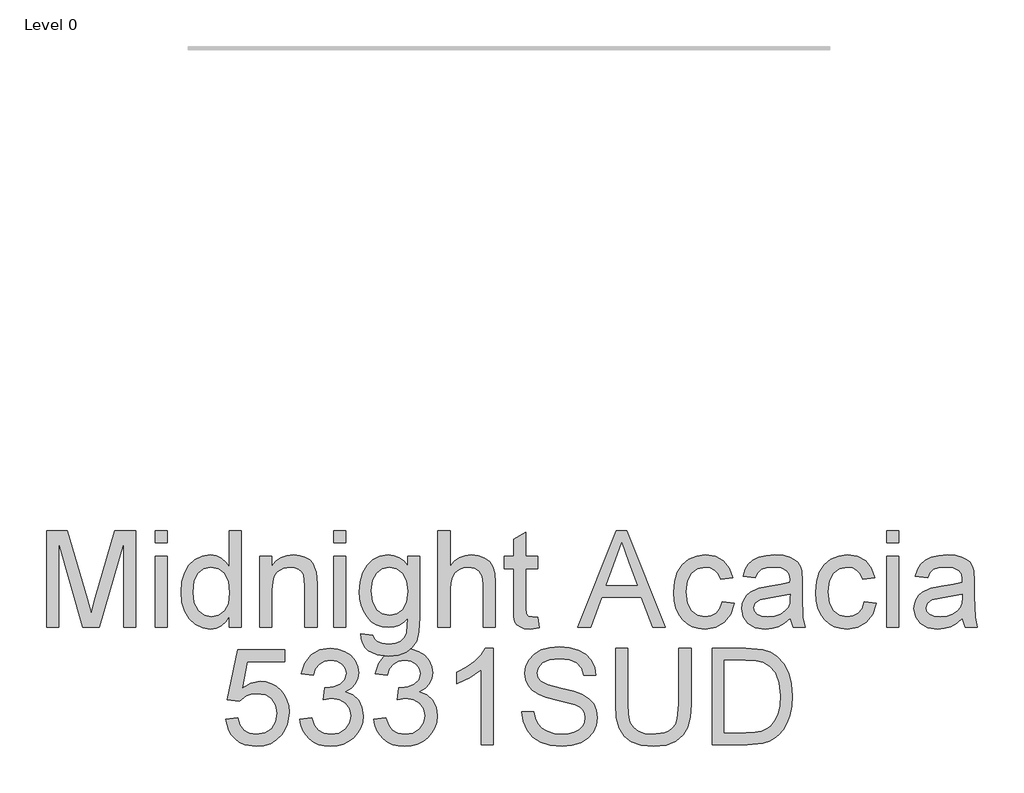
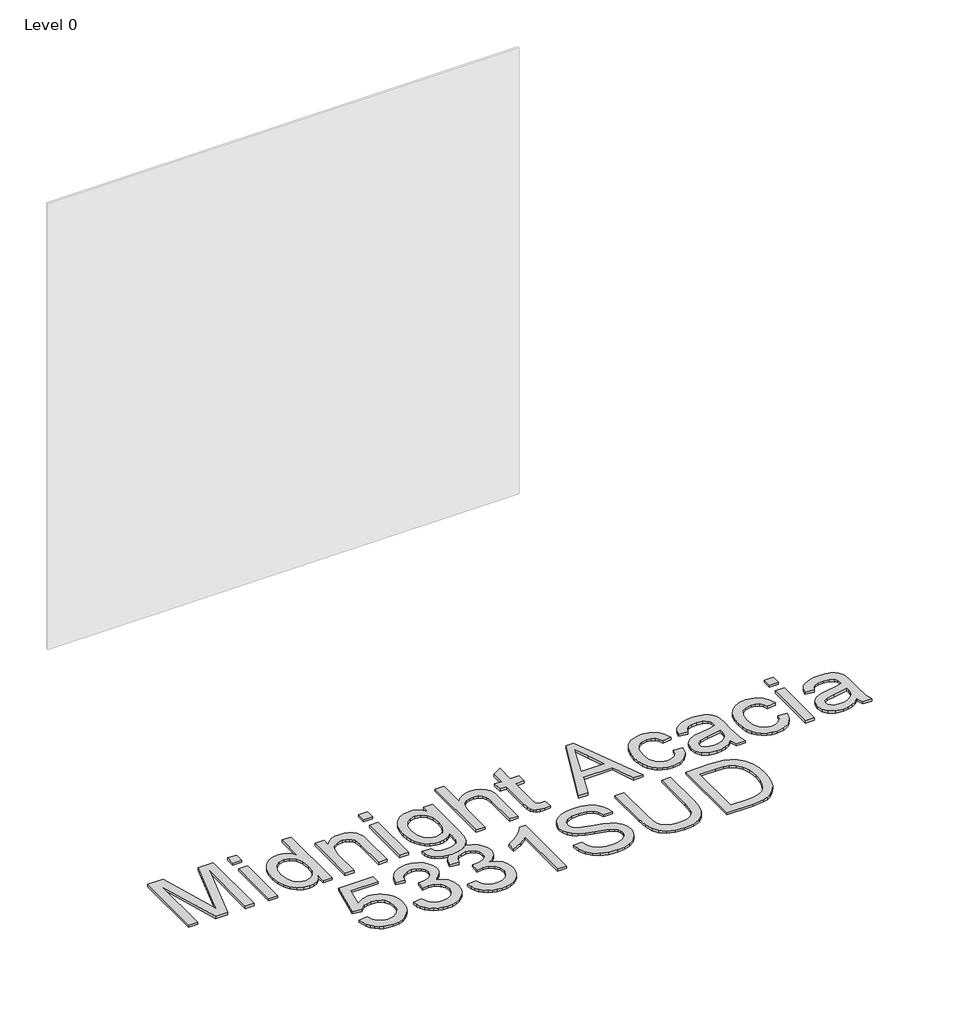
# One storey, part 3 of 7: 1 proxy.
"""IFC4 building model written with IfcOpenShell, lengths in millimetres."""

from ifc_helpers import new_model, si_unit, origin, origin_with_axes, place, context, project, spatial, polyline, outline, extrude, element, save

model = new_model("IFC4")

# Units and contexts
model_context = context("Model", 3, world=origin())
ifc_project = project(units=[si_unit("LENGTHUNIT", "METRE", prefix="MILLI")], contexts=[model_context])

# Site, building, storey
site = spatial("IfcSite", under=ifc_project)
building = spatial("IfcBuilding", under=site)
storey = spatial("IfcBuildingStorey", under=building, Name="Level 0", Elevation=0.0)

# Proxy
placement = place(None, origin())
element("IfcBuildingElementProxy", 1, Name="300mm Arial", ObjectType="300mm Arial", at=placement, inside=storey, context=model_context, shape_type="SweptSolid", body=[
    extrude(outline(polyline([(-5891.578255, -7002.860494), (-5891.578255, -6701.4915635), (-5826.7574475, -6701.4915635), (-5765.1004251, -6913.9066275), (-5752.6660136, -6958.2731962), (-5739.2015326, -6910.2278076), (-5678.5745798, -6701.4915635), (-5613.7537723, -6701.4915635), (-5613.7537723, -7002.860494), (-5651.4248886, -7002.860494), (-5651.4248886, -6739.1626798), (-5727.1350032, -7002.860494), (-5778.1970241, -7002.860494), (-5853.9071387, -6739.1626798), (-5853.9071387, -7002.860494), (-5891.578255, -7002.860494)])), origin_with_axes(), (0.0, 0.0, 1.0), 10.0),
    extrude(outline(polyline([(-5552.5382083, -6739.1626798), (-5552.5382083, -6701.4915635), (-5514.867092, -6701.4915635), (-5514.867092, -6739.1626798), (-5552.5382083, -6739.1626798)])), origin_with_axes(), (0.0, 0.0, 1.0), 10.0),
    extrude(outline(polyline([(-5552.5382083, -7002.860494), (-5552.5382083, -6781.5426857), (-5514.867092, -6781.5426857), (-5514.867092, -7002.860494), (-5552.5382083, -7002.860494)])), origin_with_axes(), (0.0, 0.0, 1.0), 10.0),
    extrude(outline(polyline([(-5321.8026209, -7002.860494), (-5321.8026209, -6967.3230932), (-5333.0736055, -6984.9308452), (-5346.7266261, -6997.507811), (-5362.7616825, -7005.0539904), (-5381.1787749, -7007.5693835), (-5405.532563, -7003.9273518), (-5427.8262119, -6993.0012565), (-5446.6985582, -6975.5544529), (-5460.7884387, -6952.350296), (-5469.5624242, -6924.3268851), (-5472.4870861, -6892.422319), (-5469.7923505, -6860.9132261), (-5461.7081437, -6832.4575538), (-5448.2436626, -6808.6739828), (-5429.4081045, -6791.181194), (-5406.6270119, -6780.4206456), (-5381.3259277, -6776.8337961), (-5362.8950397, -6779.3997731), (-5346.5978674, -6787.0977038), (-5332.7838984, -6798.8975188), (-5321.8026209, -6813.7691485), (-5321.8026209, -6701.4915635), (-5284.1315046, -6701.4915635), (-5284.1315046, -7002.860494), (-5321.8026209, -7002.860494)]), holes=[polyline([(-5434.8159698, -6892.2751662), (-5430.5669328, -6926.350236), (-5417.8198216, -6950.5844625), (-5399.2969632, -6965.069816), (-5377.7206842, -6969.8982672), (-5356.1536022, -6965.2905452), (-5338.0997933, -6951.4673793), (-5325.876914, -6928.1712519), (-5321.8026209, -6895.1446458), (-5325.9504904, -6859.037028), (-5338.3940989, -6834.0026582), (-5356.9077603, -6819.3793489), (-5379.2657885, -6814.5049125), (-5401.0627967, -6819.1862108), (-5418.9234676, -6833.230106), (-5430.8428443, -6857.3539678), (-5434.8159698, -6892.2751662)])]), origin_with_axes(), (0.0, 0.0, 1.0), 10.0),
    extrude(outline(polyline([(-5227.6248301, -7002.860494), (-5227.6248301, -6781.5426857), (-5189.9537138, -6781.5426857), (-5189.9537138, -6812.4447733), (-5176.8663118, -6796.8649708), (-5161.1485536, -6785.7365404), (-5142.8004391, -6779.0594822), (-5121.8219683, -6776.8337961), (-5103.2531246, -6778.6272209), (-5086.2477794, -6784.0074951), (-5072.0659285, -6792.303234), (-5061.9675677, -6802.8430532), (-5050.6735904, -6830.5445674), (-5048.6870277, -6866.964885), (-5048.6870277, -7002.860494), (-5086.358144, -7002.860494), (-5086.358144, -6872.0416565), (-5090.6991515, -6838.7115477), (-5096.7048251, -6828.7879309), (-5106.0398307, -6821.0900002), (-5118.0051926, -6816.1511844), (-5131.901935, -6814.5049125), (-5153.9656576, -6818.2021265), (-5172.7736246, -6829.2937687), (-5180.2899137, -6838.3482643), (-5185.6586915, -6850.7228949), (-5189.9537138, -6885.4325611), (-5189.9537138, -7002.860494), (-5227.6248301, -7002.860494)])), origin_with_axes(), (0.0, 0.0, 1.0), 10.0),
    extrude(outline(polyline([(-4996.8892427, -6739.1626798), (-4996.8892427, -6701.4915635), (-4959.2181264, -6701.4915635), (-4959.2181264, -6739.1626798), (-4996.8892427, -6739.1626798)])), origin_with_axes(), (0.0, 0.0, 1.0), 10.0),
    extrude(outline(polyline([(-4996.8892427, -7002.860494), (-4996.8892427, -6781.5426857), (-4959.2181264, -6781.5426857), (-4959.2181264, -7002.860494), (-4996.8892427, -7002.860494)])), origin_with_axes(), (0.0, 0.0, 1.0), 10.0),
    extrude(outline(polyline([(-4912.1292311, -7021.6960521), (-4874.4581148, -7026.4049417), (-4870.3010482, -7038.1771655), (-4862.2444325, -7046.2705694), (-4846.4071126, -7052.5613515), (-4825.6769622, -7054.6582789), (-4803.5672543, -7052.28544), (-4787.1229291, -7045.1669234), (-4775.7185872, -7033.7625816), (-4768.7288293, -7018.532267), (-4766.1536554, -6974.6071568), (-4778.6892344, -6986.9679918), (-4792.6779472, -6995.7971597), (-4808.119794, -7001.0946604), (-4825.0147746, -7002.860494), (-4845.6690494, -7000.8049533), (-4863.8539162, -6994.6383314), (-4879.5693752, -6984.3606281), (-4892.8154263, -6969.9718436), (-4903.3253551, -6952.708981), (-4910.832447, -6933.8090435), (-4915.3367022, -6913.2720311), (-4916.8381206, -6891.0979438), (-4914.143385, -6860.6832999), (-4906.0591781, -6832.7150712), (-4892.8706086, -6809.0142737), (-4874.8627849, -6791.4019232), (-4852.6519095, -6780.4758279), (-4826.8541846, -6776.8337961), (-4809.2372355, -6778.8939353), (-4793.2481643, -6785.0743528), (-4778.8869709, -6795.3750487), (-4766.1536554, -6809.7960229), (-4766.1536554, -6781.5426857), (-4728.4825391, -6781.5426857), (-4728.4825391, -6972.620594), (-4731.057713, -7016.7388422), (-4738.7832349, -7045.7923228), (-4752.0913661, -7065.0601423), (-4771.4143679, -7079.8214074), (-4796.329176, -7089.2023982), (-4826.4127262, -7092.3293952), (-4861.4626833, -7087.9240083), (-4889.06303, -7074.7078476), (-4899.4579956, -7064.7865301), (-4906.767351, -7052.644125), (-4910.9910961, -7038.2806323), (-4912.1292311, -7021.6960521)]), holes=[polyline([(-4879.1670043, -6888.5227699), (-4875.1478935, -6923.0760863), (-4863.0905611, -6946.8320661), (-4844.9631758, -6960.6000498), (-4822.7339062, -6965.1893777), (-4800.6701836, -6960.6276409), (-4782.4508278, -6946.9424307), (-4770.2279485, -6923.4899535), (-4766.1536554, -6889.6264159), (-4770.3475101, -6856.9676917), (-4782.9290744, -6833.4508352), (-4801.4151446, -6819.2413931), (-4823.3225174, -6814.5049125), (-4844.8344171, -6819.1678167), (-4862.8698319, -6833.1565296), (-4875.0927112, -6856.3238983), (-4879.1670043, -6888.5227699)])]), origin_with_axes(), (0.0, 0.0, 1.0), 10.0),
    extrude(outline(polyline([(-4671.9758646, -7002.860494), (-4671.9758646, -6701.4915635), (-4634.3047483, -6701.4915635), (-4634.3047483, -6812.2976205), (-4620.4677868, -6796.7821973), (-4604.929371, -6785.6997522), (-4587.689501, -6779.0502852), (-4568.7481768, -6776.8337961), (-4545.9946754, -6779.2526203), (-4526.4417473, -6786.5090926), (-4511.0458858, -6798.0329961), (-4500.7635841, -6813.2541137), (-4494.9694426, -6834.1682051), (-4493.0380622, -6862.7710302), (-4493.0380622, -7002.860494), (-4530.7091785, -7002.860494), (-4530.7091785, -6866.6705794), (-4533.7074167, -6843.0893435), (-4542.7021315, -6826.9393239), (-4557.1966821, -6817.6135153), (-4576.6944279, -6814.5049125), (-4592.6145212, -6816.6018398), (-4607.5597273, -6822.8926219), (-4619.9389564, -6832.7702535), (-4628.161119, -6845.6277292), (-4632.768841, -6862.7158479), (-4634.3047483, -6885.2854083), (-4634.3047483, -7002.860494), (-4671.9758646, -7002.860494)])), origin_with_axes(), (0.0, 0.0, 1.0), 10.0),
    extrude(outline(polyline([(-4361.1891551, -6971.4433716), (-4356.4802655, -7003.96414), (-4384.6600264, -7007.5693835), (-4402.7414264, -7006.005885), (-4416.2243016, -7001.3153896), (-4425.7524452, -6994.0865084), (-4431.969651, -6984.9078526), (-4435.3909535, -6969.1441091), (-4436.5313877, -6942.1599648), (-4436.5313877, -6819.213802), (-4464.7847249, -6819.213802), (-4464.7847249, -6781.5426857), (-4436.5313877, -6781.5426857), (-4436.5313877, -6727.758338), (-4398.8602714, -6705.6118419), (-4398.8602714, -6781.5426857), (-4361.1891551, -6781.5426857), (-4361.1891551, -6819.213802), (-4398.8602714, -6819.213802), (-4398.8602714, -6941.0563188), (-4396.8737086, -6960.4804881), (-4390.4357737, -6967.3598814), (-4377.5966921, -6969.8982672), (-4361.1891551, -6971.4433716)])), origin_with_axes(), (0.0, 0.0, 1.0), 10.0),
    extrude(outline(polyline([(-4236.1828531, -7002.860494), (-4115.8854407, -6701.4915635), (-4083.8061307, -6701.4915635), (-3963.5087183, -7002.860494), (-4003.3135502, -7002.860494), (-4037.8208813, -6908.6827032), (-4161.9442665, -6908.6827032), (-4196.3780212, -7002.860494), (-4236.1828531, -7002.860494)]), holes=[polyline([(-4148.1119035, -6871.0115869), (-4051.5796679, -6871.0115869), (-4078.7293592, -6796.9201531), (-4099.8457857, -6739.1626798), (-4118.6077675, -6790.44543), (-4148.1119035, -6871.0115869)])]), origin_with_axes(), (0.0, 0.0, 1.0), 10.0),
    extrude(outline(polyline([(-3786.7046314, -6922.8093718), (-3749.0335151, -6927.5182614), (-3759.5365461, -6961.0231141), (-3779.2734151, -6986.3425924), (-3806.3863182, -7002.2626857), (-3839.0174511, -7007.5693835), (-3860.145374, -7005.7184772), (-3879.0889975, -7000.1657584), (-3895.8483216, -6990.9112269), (-3910.4233464, -6977.9548829), (-3922.2208621, -6961.5404481), (-3930.6476591, -6941.9116444), (-3935.7037372, -6919.0684718), (-3937.3890966, -6893.0109302), (-3934.51042, -6859.4876834), (-3925.8743902, -6830.4342028), (-3911.3430514, -6806.9725286), (-3890.7784478, -6790.2247008), (-3866.1763394, -6780.1815223), (-3839.5324859, -6776.8337961), (-3807.7014963, -6781.4323211), (-3782.2532593, -6795.2278959), (-3763.9971153, -6817.4847566), (-3753.7424046, -6847.4671392), (-3791.413521, -6852.1760288), (-3798.246929, -6835.7409006), (-3808.8879157, -6823.9594797), (-3822.7478699, -6816.8685543), (-3839.2381803, -6814.5049125), (-3863.5827714, -6819.1586197), (-3882.9057732, -6833.1197414), (-3895.5149285, -6857.1424357), (-3899.7179803, -6891.9808606), (-3895.606899, -6927.2883351), (-3883.2736551, -6951.3938029), (-3864.3001412, -6965.2721511), (-3840.2682499, -6969.8982672), (-3820.7613071, -6967.0103936), (-3804.7676374, -6958.3467726), (-3793.1333693, -6943.6866751), (-3786.7046314, -6922.8093718)])), origin_with_axes(), (0.0, 0.0, 1.0), 10.0),
    extrude(outline(polyline([(-3574.8046022, -6974.6071568), (-3592.8032288, -6990.0398064), (-3611.3352843, -7000.1381672), (-3630.823833, -7005.7115794), (-3651.6919392, -7007.5693835), (-3683.1734409, -7003.0996173), (-3706.3959919, -6989.6903186), (-3720.7157985, -6969.3280501), (-3725.4890674, -6943.9993748), (-3723.6864456, -6928.3827841), (-3718.2785803, -6914.2009331), (-3709.9368561, -6902.0608273), (-3699.3326576, -6892.5694718), (-3672.9555185, -6880.2086368), (-3640.3611737, -6874.5432541), (-3601.8439288, -6868.5835657), (-3575.0253314, -6861.5938078), (-3574.8046022, -6853.2060983), (-3577.3981703, -6836.3938912), (-3585.1788745, -6825.3942195), (-3602.5796928, -6817.2272392), (-3626.8231163, -6814.5049125), (-3649.263918, -6816.3167313), (-3664.935691, -6821.7521878), (-3675.622663, -6831.8045633), (-3683.1090616, -6847.4671392), (-3720.7801779, -6842.7582497), (-3714.2410754, -6822.156858), (-3704.4830055, -6805.9700502), (-3690.5954602, -6793.590821), (-3671.6679315, -6784.4121652), (-3648.518957, -6778.7283884), (-3621.967074, -6776.8337961), (-3596.5004429, -6778.5076592), (-3576.3129184, -6783.5292485), (-3561.0918008, -6791.0800264), (-3550.5243905, -6800.3414556), (-3543.5162385, -6811.7917827), (-3538.9728959, -6825.9092543), (-3537.1334859, -6858.8714811), (-3537.1334859, -6905.7396473), (-3535.2204995, -6971.1858542), (-3527.7157068, -7002.860494), (-3565.3868231, -7002.860494), (-3574.8046022, -6974.6071568)]), holes=[polyline([(-3574.8046022, -6899.2649241), (-3635.5787078, -6910.8164188), (-3667.9891116, -6916.9232599), (-3682.6676032, -6926.8560738), (-3687.8179511, -6941.3506244), (-3685.0128509, -6952.5526311), (-3676.5975503, -6961.7312869), (-3662.7559902, -6967.8565221), (-3643.6721117, -6969.8982672), (-3623.438602, -6967.64499), (-3605.559537, -6960.8851583), (-3591.0649864, -6950.9247533), (-3580.9850197, -6939.069756), (-3576.5152535, -6926.8560738), (-3575.0253314, -6909.933502), (-3574.8046022, -6899.2649241)])]), origin_with_axes(), (0.0, 0.0, 1.0), 10.0),
    extrude(outline(polyline([(-3344.0690148, -6922.8093718), (-3306.3978985, -6927.5182614), (-3316.9009295, -6961.0231141), (-3336.6377985, -6986.3425924), (-3363.7507016, -7002.2626857), (-3396.3818345, -7007.5693835), (-3417.5097574, -7005.7184772), (-3436.4533809, -7000.1657584), (-3453.212705, -6990.9112269), (-3467.7877298, -6977.9548829), (-3479.5852455, -6961.5404481), (-3488.0120425, -6941.9116444), (-3493.0681206, -6919.0684718), (-3494.75348, -6893.0109302), (-3491.8748034, -6859.4876834), (-3483.2387736, -6830.4342028), (-3468.7074348, -6806.9725286), (-3448.1428313, -6790.2247008), (-3423.5407228, -6780.1815223), (-3396.8968693, -6776.8337961), (-3365.0658797, -6781.4323211), (-3339.6176427, -6795.2278959), (-3321.3614987, -6817.4847566), (-3311.106788, -6847.4671392), (-3348.7779044, -6852.1760288), (-3355.6113124, -6835.7409006), (-3366.2522991, -6823.9594797), (-3380.1122533, -6816.8685543), (-3396.6025637, -6814.5049125), (-3420.9471548, -6819.1586197), (-3440.2701566, -6833.1197414), (-3452.8793119, -6857.1424357), (-3457.0823637, -6891.9808606), (-3452.9712824, -6927.2883351), (-3440.6380385, -6951.3938029), (-3421.6645246, -6965.2721511), (-3397.6326333, -6969.8982672), (-3378.1256905, -6967.0103936), (-3362.1320208, -6958.3467726), (-3350.4977527, -6943.6866751), (-3344.0690148, -6922.8093718)])), origin_with_axes(), (0.0, 0.0, 1.0), 10.0),
    extrude(outline(polyline([(-3273.4356717, -6739.1626798), (-3273.4356717, -6701.4915635), (-3235.7645554, -6701.4915635), (-3235.7645554, -6739.1626798), (-3273.4356717, -6739.1626798)])), origin_with_axes(), (0.0, 0.0, 1.0), 10.0),
    extrude(outline(polyline([(-3273.4356717, -7002.860494), (-3273.4356717, -6781.5426857), (-3235.7645554, -6781.5426857), (-3235.7645554, -7002.860494), (-3273.4356717, -7002.860494)])), origin_with_axes(), (0.0, 0.0, 1.0), 10.0),
    extrude(outline(polyline([(-3037.9911948, -6974.6071568), (-3055.9898214, -6990.0398064), (-3074.5218769, -7000.1381672), (-3094.0104256, -7005.7115794), (-3114.8785318, -7007.5693835), (-3146.3600336, -7003.0996173), (-3169.5825845, -6989.6903186), (-3183.9023912, -6969.3280501), (-3188.6756601, -6943.9993748), (-3186.8730383, -6928.3827841), (-3181.4651729, -6914.2009331), (-3173.1234487, -6902.0608273), (-3162.5192502, -6892.5694718), (-3136.1421111, -6880.2086368), (-3103.5477664, -6874.5432541), (-3065.0305215, -6868.5835657), (-3038.211924, -6861.5938078), (-3037.9911948, -6853.2060983), (-3040.5847629, -6836.3938912), (-3048.3654671, -6825.3942195), (-3065.7662855, -6817.2272392), (-3090.0097089, -6814.5049125), (-3112.4505107, -6816.3167313), (-3128.1222836, -6821.7521878), (-3138.8092556, -6831.8045633), (-3146.2956542, -6847.4671392), (-3183.9667705, -6842.7582497), (-3177.4276681, -6822.156858), (-3167.6695981, -6805.9700502), (-3153.7820528, -6793.590821), (-3134.8545242, -6784.4121652), (-3111.7055496, -6778.7283884), (-3085.1536666, -6776.8337961), (-3059.6870355, -6778.5076592), (-3039.499511, -6783.5292485), (-3024.2783935, -6791.0800264), (-3013.7109831, -6800.3414556), (-3006.7028311, -6811.7917827), (-3002.1594885, -6825.9092543), (-3000.3200785, -6858.8714811), (-3000.3200785, -6905.7396473), (-2998.4070921, -6971.1858542), (-2990.9022994, -7002.860494), (-3028.5734158, -7002.860494), (-3037.9911948, -6974.6071568)]), holes=[polyline([(-3037.9911948, -6899.2649241), (-3098.7653004, -6910.8164188), (-3131.1757042, -6916.9232599), (-3145.8541958, -6926.8560738), (-3151.0045437, -6941.3506244), (-3148.1994435, -6952.5526311), (-3139.7841429, -6961.7312869), (-3125.9425828, -6967.8565221), (-3106.8587043, -6969.8982672), (-3086.6251946, -6967.64499), (-3068.7461296, -6960.8851583), (-3054.251579, -6950.9247533), (-3044.1716123, -6939.069756), (-3039.7018461, -6926.8560738), (-3038.211924, -6909.933502), (-3037.9911948, -6899.2649241)])]), origin_with_axes(), (0.0, 0.0, 1.0), 10.0),
    extrude(outline(polyline([(-5333.5748447, -7288.7338254), (-5295.9037284, -7284.0249358), (-5288.9875469, -7306.6404815), (-5276.9210175, -7322.8364863), (-5259.7593224, -7332.5761621), (-5237.557644, -7335.8227207), (-5210.5551055, -7331.3069693), (-5190.3215958, -7317.7597148), (-5177.6848493, -7296.7444558), (-5173.4726004, -7269.8246908), (-5177.4181348, -7244.4776213), (-5189.254738, -7225.0902402), (-5209.0743805, -7212.7845875), (-5236.9690328, -7208.6827032), (-5255.2435709, -7210.3197781), (-5270.0416242, -7215.2310027), (-5291.1948389, -7232.2271509), (-5328.8659552, -7227.5182614), (-5295.9037284, -7072.1249066), (-5149.9281527, -7072.1249066), (-5149.9281527, -7109.7960229), (-5265.4430992, -7109.7960229), (-5281.5563306, -7192.790201), (-5254.6457627, -7176.4562404), (-5226.4476077, -7171.0115869), (-5208.1017925, -7172.6992456), (-5191.2504978, -7177.7622215), (-5175.8937238, -7186.2005148), (-5162.0314704, -7198.0141254), (-5150.5558514, -7212.4810848), (-5142.3589807, -7228.8794248), (-5137.4408583, -7247.2091452), (-5135.8014841, -7267.470246), (-5141.7059901, -7305.1413624), (-5149.0866227, -7321.9351754), (-5159.4195082, -7337.3678251), (-5175.0728871, -7353.1729553), (-5193.3382282, -7364.4623341), (-5214.2155314, -7371.2359613), (-5237.7047968, -7373.4938371), (-5274.7045285, -7367.6904986), (-5290.3831992, -7360.4363255), (-5304.1810733, -7350.2804832), (-5315.6612908, -7337.7288093), (-5324.3869919, -7323.2871418), (-5333.5748447, -7288.7338254)])), origin_with_axes(), (0.0, 0.0, 1.0), 10.0),
    extrude(outline(polyline([(-5102.8392574, -7288.7338254), (-5065.1681411, -7284.0249358), (-5056.7344463, -7307.6981422), (-5044.3828083, -7323.6826149), (-5027.5062218, -7332.7876943), (-5005.4976814, -7335.8227207), (-4979.6723654, -7331.6472601), (-4959.7331612, -7319.1208782), (-4946.9860501, -7300.4324728), (-4942.7370131, -7277.7709419), (-4946.9492619, -7256.2590422), (-4959.5860084, -7238.8122386), (-4978.7158722, -7227.2515469), (-5002.4074727, -7223.397983), (-5028.8213999, -7227.5182614), (-5024.6275452, -7189.8471451), (-5018.5942805, -7190.2886035), (-4996.0247201, -7187.5846708), (-4975.8463926, -7179.4728728), (-4961.6093594, -7165.7508744), (-4956.8636817, -7146.2163404), (-4960.3033783, -7129.9467592), (-4970.6224683, -7116.7489926), (-4986.3678177, -7108.0025982), (-5006.0862926, -7105.0871334), (-5025.8415558, -7108.0301893), (-5041.9915754, -7116.8593572), (-5053.7821933, -7131.574637), (-5060.4592515, -7152.1760288), (-5098.1303678, -7147.4671392), (-5087.0387257, -7113.6403898), (-5067.3018566, -7088.3852908), (-5040.2993182, -7072.6583355), (-5007.4106678, -7067.4160171), (-4983.7282644, -7070.0003881), (-4961.9772414, -7077.7535011), (-4943.6383239, -7089.9855775), (-4930.192237, -7106.0068384), (-4921.9424833, -7124.4653175), (-4919.1925654, -7144.0090485), (-4921.8045275, -7162.2192072), (-4929.640414, -7178.7371088), (-4942.5898603, -7192.8085951), (-4960.5425016, -7203.6795081), (-4936.9612657, -7213.2076518), (-4919.486871, -7229.4312477), (-4908.6711403, -7251.4673793), (-4905.0658967, -7278.4331295), (-4906.8685185, -7297.5445992), (-4912.2763839, -7315.1477526), (-4921.2894927, -7331.2425899), (-4933.9078452, -7345.829111), (-4949.280714, -7357.9324287), (-4966.5573722, -7366.5776555), (-4985.7378198, -7371.7647917), (-5006.8220566, -7373.4938371), (-5025.878344, -7372.0177105), (-5043.2423741, -7367.589331), (-5058.9141471, -7360.2086985), (-5072.8936629, -7349.875813), (-5084.615303, -7337.1976797), (-5093.5134488, -7322.781304), (-5099.5881002, -7306.6266859), (-5102.8392574, -7288.7338254)])), origin_with_axes(), (0.0, 0.0, 1.0), 10.0),
    extrude(outline(polyline([(-4872.10367, -7288.7338254), (-4834.4325537, -7284.0249358), (-4825.9988589, -7307.6981422), (-4813.6472209, -7323.6826149), (-4796.7706344, -7332.7876943), (-4774.7620941, -7335.8227207), (-4748.936778, -7331.6472601), (-4728.9975739, -7319.1208782), (-4716.2504627, -7300.4324728), (-4712.0014257, -7277.7709419), (-4716.2136745, -7256.2590422), (-4728.8504211, -7238.8122386), (-4747.9802848, -7227.2515469), (-4771.6718853, -7223.397983), (-4798.0858126, -7227.5182614), (-4793.8919578, -7189.8471451), (-4787.8586931, -7190.2886035), (-4765.2891327, -7187.5846708), (-4745.1108052, -7179.4728728), (-4730.873772, -7165.7508744), (-4726.1280943, -7146.2163404), (-4729.567791, -7129.9467592), (-4739.8868809, -7116.7489926), (-4755.6322303, -7108.0025982), (-4775.3507053, -7105.0871334), (-4795.1059684, -7108.0301893), (-4811.255988, -7116.8593572), (-4823.0466059, -7131.574637), (-4829.7236641, -7152.1760288), (-4867.3947804, -7147.4671392), (-4856.3031383, -7113.6403898), (-4836.5662692, -7088.3852908), (-4809.5637308, -7072.6583355), (-4776.6750804, -7067.4160171), (-4752.992677, -7070.0003881), (-4731.241654, -7077.7535011), (-4712.9027366, -7089.9855775), (-4699.4566496, -7106.0068384), (-4691.2068959, -7124.4653175), (-4688.456978, -7144.0090485), (-4691.0689402, -7162.2192072), (-4698.9048267, -7178.7371088), (-4711.8542729, -7192.8085951), (-4729.8069142, -7203.6795081), (-4706.2256784, -7213.2076518), (-4688.7512836, -7229.4312477), (-4677.9355529, -7251.4673793), (-4674.3303094, -7278.4331295), (-4676.1329312, -7297.5445992), (-4681.5407965, -7315.1477526), (-4690.5539054, -7331.2425899), (-4703.1722578, -7345.829111), (-4718.5451267, -7357.9324287), (-4735.8217849, -7366.5776555), (-4755.0022324, -7371.7647917), (-4776.0864692, -7373.4938371), (-4795.1427566, -7372.0177105), (-4812.5067868, -7367.589331), (-4828.1785598, -7360.2086985), (-4842.1580756, -7349.875813), (-4853.8797156, -7337.1976797), (-4862.7778614, -7322.781304), (-4868.8525128, -7306.6266859), (-4872.10367, -7288.7338254)])), origin_with_axes(), (0.0, 0.0, 1.0), 10.0),
    extrude(outline(polyline([(-4500.1013965, -7368.7849475), (-4537.7725128, -7368.7849475), (-4537.7725128, -7133.9290818), (-4573.4570663, -7159.3497277), (-4613.1147454, -7178.3692268), (-4613.1147454, -7142.7582497), (-4583.5278359, -7126.6634124), (-4557.8956579, -7107.5151545), (-4537.6897393, -7087.1528861), (-4524.3816081, -7067.4160171), (-4500.1013965, -7067.4160171), (-4500.1013965, -7368.7849475)])), origin_with_axes(), (0.0, 0.0, 1.0), 10.0),
    extrude(outline(polyline([(-4410.6324952, -7265.1893777), (-4372.9613789, -7265.1893777), (-4368.6387655, -7286.0942721), (-4360.8212731, -7302.8972822), (-4348.6259849, -7316.2330045), (-4331.1699843, -7326.7360355), (-4309.8328286, -7333.5510494), (-4285.9940753, -7335.8227207), (-4265.0064074, -7334.1028724), (-4246.6307018, -7328.9433274), (-4231.740678, -7320.7763471), (-4221.2100559, -7310.0341929), (-4214.9468649, -7297.700949), (-4212.8591346, -7284.7606998), (-4214.4226331, -7272.1515444), (-4219.1131285, -7261.2530403), (-4228.6412722, -7251.9548229), (-4244.7177154, -7244.1465276), (-4299.5689209, -7229.7623415), (-4335.5753712, -7220.2433949), (-4358.6139811, -7211.1843008), (-4377.3667658, -7198.510766), (-4390.6565029, -7183.1516928), (-4398.5751628, -7165.4381747), (-4401.2147162, -7145.7013056), (-4397.9497634, -7123.637583), (-4388.1549053, -7103.0637824), (-4372.0876592, -7085.6261758), (-4350.0055424, -7072.9710352), (-4323.4996447, -7065.2731044), (-4294.1610556, -7062.7071275), (-4262.3760512, -7065.3926661), (-4234.5641723, -7073.4492818), (-4211.7187004, -7086.7114277), (-4194.8329169, -7105.013557), (-4184.1459449, -7127.2152354), (-4179.8969079, -7152.1760288), (-4217.5680242, -7152.1760288), (-4224.4842057, -7129.6984389), (-4238.9051799, -7113.4748429), (-4261.4379521, -7103.6523936), (-4292.6895276, -7100.3782438), (-4324.6768671, -7103.6156054), (-4346.6210281, -7113.3276901), (-4359.3129569, -7127.6199056), (-4363.5435998, -7144.5976597), (-4360.5453616, -7159.0738162), (-4351.5506468, -7170.7172813), (-4330.2870675, -7181.1283418), (-4290.0407772, -7191.7601314), (-4248.5069, -7201.8584922), (-4223.3805597, -7210.669266), (-4201.9054482, -7224.3360821), (-4186.923454, -7241.2034716), (-4178.1218772, -7261.0874934), (-4175.1880183, -7283.8042066), (-4178.5633356, -7307.0267576), (-4188.6892875, -7328.869751), (-4205.1520068, -7347.668521), (-4227.5376262, -7361.7584014), (-4254.4573912, -7370.5599781), (-4284.5225473, -7373.4938371), (-4321.4303085, -7370.3300519), (-4351.8081642, -7360.8386964), (-4376.0056024, -7344.9829824), (-4394.372111, -7322.7261217), (-4406.162729, -7295.6132187), (-4410.6324952, -7265.1893777)])), origin_with_axes(), (0.0, 0.0, 1.0), 10.0),
    extrude(outline(polyline([(-3920.9079833, -7067.4160171), (-3883.2368669, -7067.4160171), (-3883.2368669, -7241.277048), (-3885.7936468, -7281.9923878), (-3893.4639864, -7313.3451308), (-3907.7929901, -7337.533372), (-3930.3257623, -7356.7552063), (-3961.1174853, -7369.3091794), (-4000.2233414, -7373.4938371), (-4038.4738719, -7369.8518053), (-4069.0540627, -7358.92571), (-4091.973111, -7341.0926303), (-4107.2402138, -7316.7296452), (-4115.8210613, -7284.052527), (-4118.6813439, -7241.277048), (-4118.6813439, -7067.4160171), (-4081.0102276, -7067.4160171), (-4081.0102276, -7239.9526728), (-4079.1524235, -7273.8070134), (-4073.5790113, -7297.3790523), (-4063.4806505, -7313.7038158), (-4048.0480008, -7325.8163305), (-4027.9248556, -7333.3211232), (-4003.7550086, -7335.8227207), (-3965.4400988, -7330.8747079), (-3951.0972995, -7324.6896919), (-3939.9642706, -7316.0306694), (-3931.6271449, -7303.8537754), (-3925.6720551, -7287.1151446), (-3920.9079833, -7239.9526728), (-3920.9079833, -7067.4160171)])), origin_with_axes(), (0.0, 0.0, 1.0), 10.0),
    extrude(outline(polyline([(-3817.3124134, -7368.7849475), (-3817.3124134, -7067.4160171), (-3713.3489616, -7067.4160171), (-3659.5646139, -7071.7570246), (-3635.5419196, -7080.12634), (-3615.2716217, -7093.3149095), (-3594.4311066, -7116.270746), (-3579.5870681, -7144.8183889), (-3570.7027179, -7178.406015), (-3567.7412679, -7216.4818015), (-3569.7462248, -7248.8278259), (-3575.7610954, -7277.2926953), (-3584.9213571, -7301.5269217), (-3596.3624871, -7321.1810173), (-3609.5326625, -7336.6964405), (-3623.8800603, -7348.5146496), (-3640.3519767, -7357.2794381), (-3659.8957077, -7363.6345996), (-3708.3457664, -7368.7849475), (-3817.3124134, -7368.7849475)]), holes=[polyline([(-3779.6412971, -7331.1138312), (-3712.9810796, -7331.1138312), (-3685.408324, -7329.7526678), (-3664.4942326, -7325.6691777), (-3648.712095, -7319.1024841), (-3636.535201, -7310.2917103), (-3623.447799, -7293.9853408), (-3613.6161527, -7272.8781114), (-3607.4633263, -7246.8780514), (-3605.4123842, -7215.8931903), (-3609.431495, -7174.8375597), (-3621.4888274, -7144.5240833), (-3639.303513, -7123.7019623), (-3660.5946835, -7111.1203981), (-3682.262933, -7106.5954496), (-3714.0111492, -7105.0871334), (-3779.6412971, -7105.0871334), (-3779.6412971, -7331.1138312)])]), origin_with_axes(), (0.0, 0.0, 1.0), 10.0),
])

save(model, "model.ifc")
